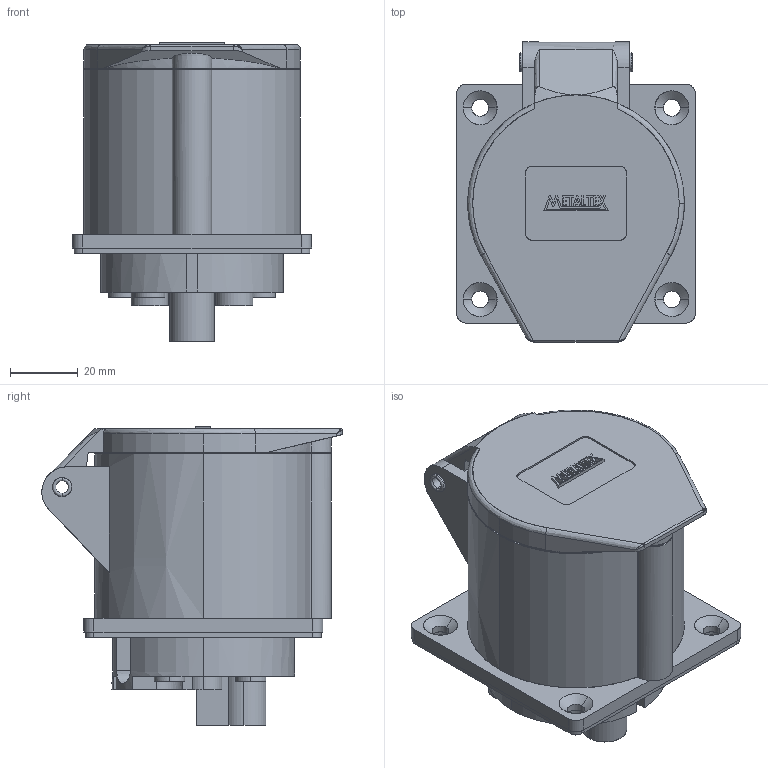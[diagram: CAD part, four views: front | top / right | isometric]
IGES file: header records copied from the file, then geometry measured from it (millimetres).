
Start section: SolidWorks IGES file using analytic representation for surfaces
Global section: file name: D:\X - Arquivos\PROEX\Empresas\P11 - METALTEX\01 - Produtos\IGES\4ª remessa\3ª etapa\TLR32443.IGS; native system: SolidWorks 2012; preprocessor: SolidWorks 2012; author: Usuario; date: 180418.161242; units: millimetre
Bounding box: 70.6 x 88.7 x 88.1 mm (x, y, z)
Surface area: 35371.6 mm2 (no closed solid volume)
Topology: 0 solids, 0 shells, 432 faces, 5946 edges, 5945 vertices
Faces by surface type: bspline 279, revolution 153
